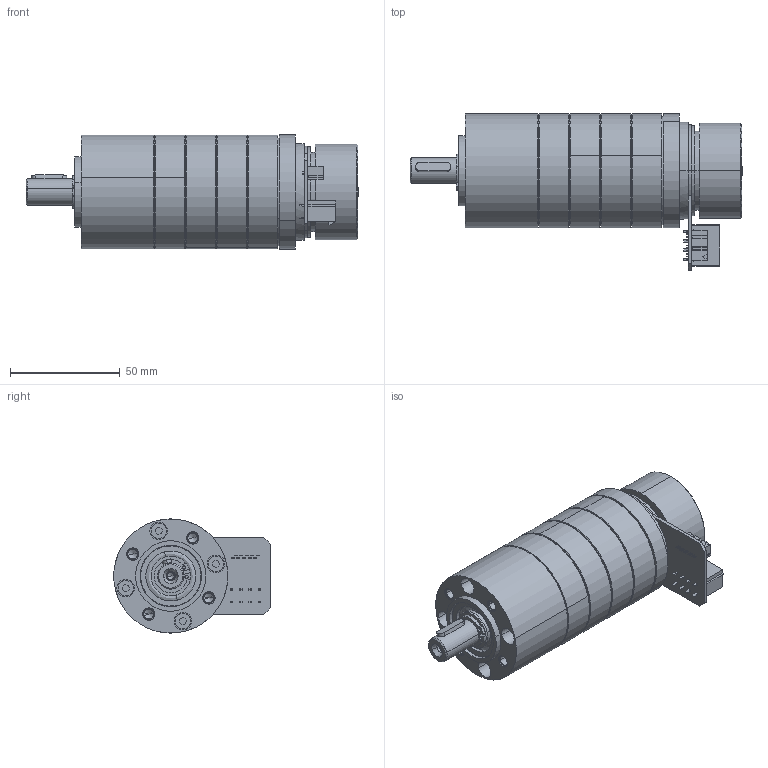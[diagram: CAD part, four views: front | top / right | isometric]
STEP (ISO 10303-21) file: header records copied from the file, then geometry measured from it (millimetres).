
FILE_DESCRIPTION (( 'STEP AP214' ), '1' );
FILE_NAME ('EC45Flat-70W+mile+ PM52-4 étages.STEP', '2014-11-18T14:17:20', ( '' ), ( '' ), 'SwSTEP 2.0', 'SolidWorks 2013', '' );
FILE_SCHEMA (( 'AUTOMOTIVE_DESIGN' ));
Length unit declared in the file: millimetre
Products named in the file (21): 8006405_DICHTRING_2; 8006230_ZAHNKRANZ_Z46_2; EC45Flat-70w+mile; 906350101; 039281083; EC45FLAT-70W+mile; PM52 pour EC45Flat-70W_4 etages; Coté moteur^PM52 pour EC45Flat-70W; EC45Flat-70W+mile+ PM52-4 étages; 1009221-V1_Part; D912_M4X10_1; Coté sortie^PM52 pour EC45Flat-70W; SCHRAUBE_1241978_6; 4X4X16_D6885A_2; D471_12X1_5_2; 8102168_ABTRIEB_LK1_KPL_2; GK2152_POS31_2_LAGERBOLZEN_2; 8101171_ABTRIEB_ROHTEIL_AF0_2; DIN998_PS_12X18X1_2; D625-6001-2RS_2; 8006231_LAGERFLANSCH_2
Assembly tree (36 placements, depth 5):
  EC45Flat-70W+mile+ PM52-4 étages
    EC45Flat-70w+mile
      EC45FLAT-70W+mile
      039281083
      906350101
    PM52 pour EC45Flat-70W_4 etages
      8006230_ZAHNKRANZ_Z46_2  x4
      8006405_DICHTRING_2  x3
      Coté sortie^PM52 pour EC45Flat-70W
        8006231_LAGERFLANSCH_2
        D625-6001-2RS_2  x2
        DIN998_PS_12X18X1_2  x2
        8102168_ABTRIEB_LK1_KPL_2
          8101171_ABTRIEB_ROHTEIL_AF0_2
          GK2152_POS31_2_LAGERBOLZEN_2  x3
        D471_12X1_5_2
        4X4X16_D6885A_2
        8006405_DICHTRING_2
        SCHRAUBE_1241978_6  x4
      Coté moteur^PM52 pour EC45Flat-70W
        D912_M4X10_1  x3
        8006405_DICHTRING_2
        1009221-V1_Part
Bounding box: 151.15 x 71.3 x 52 mm (x, y, z)
Volume: 131640.3 mm3; surface area: 101680 mm2
Topology: 26 solids, 49 shells, 1955 faces, 5159 edges, 3384 vertices
Faces by surface type: plane 1070, cylinder 731, cone 100, bspline 54
Entity records: 35104 total; most frequent: CARTESIAN_POINT 6936, DIRECTION 5690, ORIENTED_EDGE 5536, EDGE_CURVE 2782, VECTOR 2042, LINE 2042, AXIS2_PLACEMENT_3D 1824, VERTEX_POINT 1822
